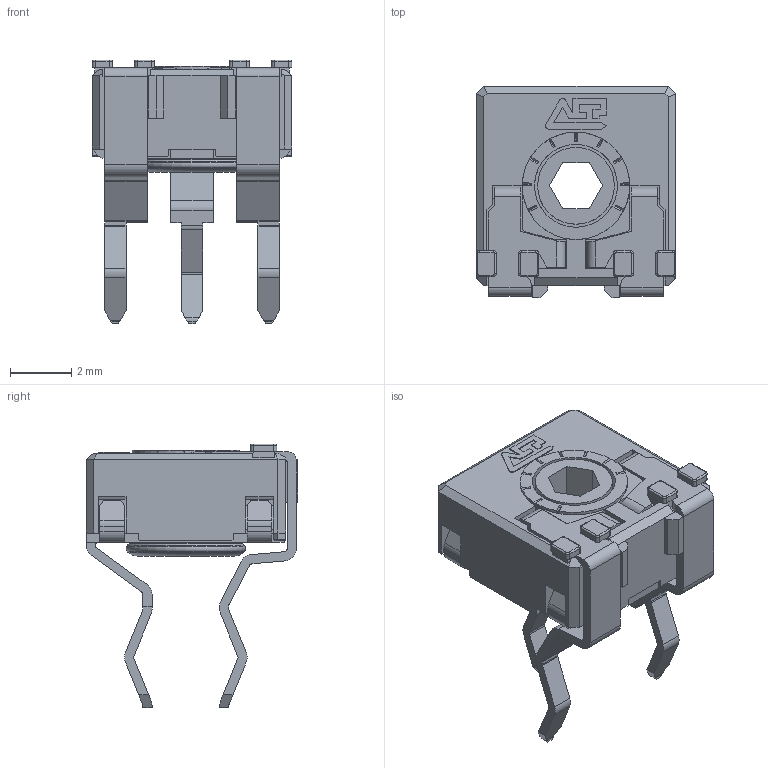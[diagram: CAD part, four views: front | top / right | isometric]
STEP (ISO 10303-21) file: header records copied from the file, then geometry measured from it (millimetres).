
FILE_DESCRIPTION(/* description */ (''),/* implementation_level */ '2;1');
FILE_NAME(/* name */ 'C:\Users\CEM\Desktop\ENVIAR\TRANSICION 3D CATALOGOS\COMCA6MV2,5 SNP.stp',/* time_stamp */ '2026-03-20T08:30:16+01:00',/* author */ ('CEM'),/* organization */ (''),/* preprocessor_version */ 'ST-DEVELOPER v16.13',/* originating_system */ 'Autodesk Inventor 2018',/* authorisation */ '');
FILE_SCHEMA (('AUTOMOTIVE_DESIGN { 1 0 10303 214 3 1 1 }'));
Length unit declared in the file: millimetre
Products named in the file (1): CARCASA CA6
Bounding box: 6.5 x 6.9 x 8.6 mm (x, y, z)
Volume: 94.4 mm3; surface area: 417 mm2
Topology: 1 solids, 1 shells, 580 faces, 1625 edges, 1044 vertices
Faces by surface type: plane 429, cylinder 112, cone 17, bspline 16, torus 6
Full cylindrical faces by diameter (mm): 2.5 x1, 2.7 x1, 2.9 x1, 3.1 x1, 3.5 x1
Entity records: 18678 total; most frequent: CARTESIAN_POINT 3409, ORIENTED_EDGE 3220, DIRECTION 3020, EDGE_CURVE 1607, LINE 1272, VECTOR 1272, VERTEX_POINT 1041, AXIS2_PLACEMENT_3D 874
